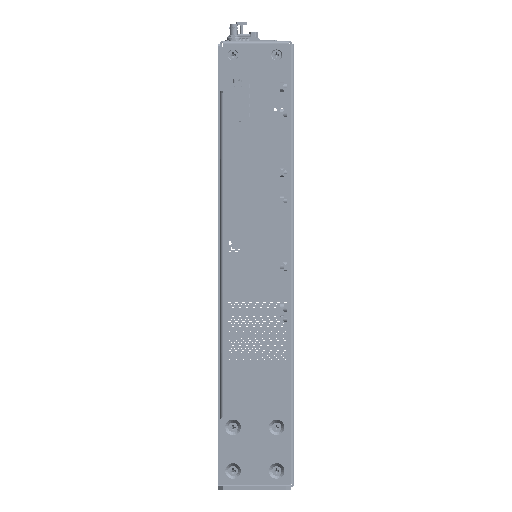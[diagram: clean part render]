
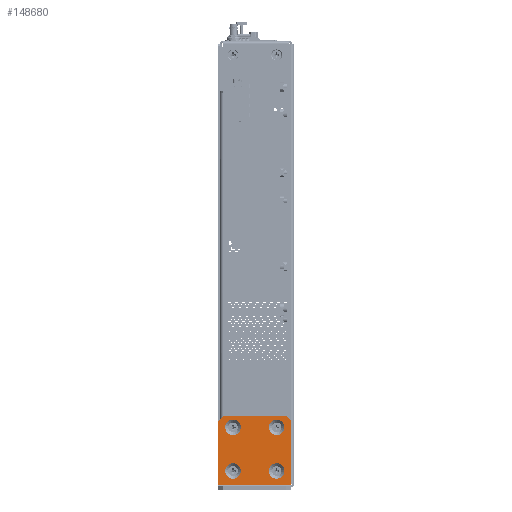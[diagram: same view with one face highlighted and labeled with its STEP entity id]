
A CAD part, left-side view. The second image highlights one B-rep face of the part: STEP entity #148680.
In plain terms, the highlighted planar face has unit normal (-1, 0, 0).
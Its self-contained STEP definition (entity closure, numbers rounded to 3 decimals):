
#4439 = VECTOR ( 'NONE', #175468, 1000. ) ;
#8830 = DIRECTION ( 'NONE',  ( -1., 0., 0. ) ) ;
#22131 = CARTESIAN_POINT ( 'NONE',  ( 0., -12.5, -37.966 ) ) ;
#40979 = VECTOR ( 'NONE', #268913, 1000. ) ;
#51517 = DIRECTION ( 'NONE',  ( 0., 0., 1. ) ) ;
#51541 = LINE ( 'NONE', #258525, #40979 ) ;
#52537 = FACE_BOUND ( 'NONE', #75534, .T. ) ;
#57394 = AXIS2_PLACEMENT_3D ( 'NONE', #282307, #8830, #654121 ) ;
#57549 = AXIS2_PLACEMENT_3D ( 'NONE', #214534, #632128, #218028 ) ;
#60727 = DIRECTION ( 'NONE',  ( 0., -0.707, -0.707 ) ) ;
#62062 = VERTEX_POINT ( 'NONE', #636543 ) ;
#62385 = EDGE_LOOP ( 'NONE', ( #599984, #138584, #452013, #313919, #600856, #195164 ) ) ;
#66461 = EDGE_CURVE ( 'NONE', #418515, #604167, #494826, .T. ) ;
#69859 = DIRECTION ( 'NONE',  ( -1., 0., 0. ) ) ;
#75534 = EDGE_LOOP ( 'NONE', ( #259034, #84891 ) ) ;
#80979 = CIRCLE ( 'NONE', #484125, 4.45 ) ;
#84891 = ORIENTED_EDGE ( 'NONE', *, *, #610404, .F. ) ;
#85391 = VERTEX_POINT ( 'NONE', #663088 ) ;
#97374 = VECTOR ( 'NONE', #60727, 1000. ) ;
#111800 = DIRECTION ( 'NONE',  ( 0., 0., 1. ) ) ;
#112041 = FACE_BOUND ( 'NONE', #291750, .T. ) ;
#122510 = EDGE_CURVE ( 'NONE', #296538, #663394, #390186, .T. ) ;
#126223 = CARTESIAN_POINT ( 'NONE',  ( 0., -18., -40. ) ) ;
#129780 = EDGE_CURVE ( 'NONE', #612977, #197543, #662069, .T. ) ;
#137743 = EDGE_CURVE ( 'NONE', #85391, #560340, #474132, .T. ) ;
#138584 = ORIENTED_EDGE ( 'NONE', *, *, #221718, .T. ) ;
#143948 = AXIS2_PLACEMENT_3D ( 'NONE', #487294, #378608, #161016 ) ;
#147103 = CARTESIAN_POINT ( 'NONE',  ( 0., 21., -0.737 ) ) ;
#148680 = ADVANCED_FACE ( 'NONE', ( #52537, #592569, #112041, #427824, #641694 ), #375221, .T. ) ;
#151888 = LINE ( 'NONE', #260695, #177338 ) ;
#161016 = DIRECTION ( 'NONE',  ( 0., 0., 1. ) ) ;
#175468 = DIRECTION ( 'NONE',  ( 0., -1., 0. ) ) ;
#177338 = VECTOR ( 'NONE', #274551, 1000. ) ;
#180341 = CIRCLE ( 'NONE', #57394, 4.45 ) ;
#192929 = EDGE_LOOP ( 'NONE', ( #645727, #431596 ) ) ;
#195164 = ORIENTED_EDGE ( 'NONE', *, *, #476957, .T. ) ;
#197543 = VERTEX_POINT ( 'NONE', #536348 ) ;
#203949 = VERTEX_POINT ( 'NONE', #22131 ) ;
#205772 = ORIENTED_EDGE ( 'NONE', *, *, #129780, .F. ) ;
#209284 = CARTESIAN_POINT ( 'NONE',  ( 0., -12.5, -8.516 ) ) ;
#210978 = EDGE_CURVE ( 'NONE', #554236, #203949, #80979, .T. ) ;
#214534 = CARTESIAN_POINT ( 'NONE',  ( 0., -12.5, -8.516 ) ) ;
#217021 = CARTESIAN_POINT ( 'NONE',  ( 0., -12.5, -33.516 ) ) ;
#218028 = DIRECTION ( 'NONE',  ( 0., 0., 1. ) ) ;
#220538 = ORIENTED_EDGE ( 'NONE', *, *, #287623, .F. ) ;
#221718 = EDGE_CURVE ( 'NONE', #663394, #418515, #383371, .T. ) ;
#232710 = CARTESIAN_POINT ( 'NONE',  ( 0., 12.5, -12.966 ) ) ;
#235842 = EDGE_CURVE ( 'NONE', #604167, #625512, #51541, .T. ) ;
#241951 = CARTESIAN_POINT ( 'NONE',  ( 0., 21., -40. ) ) ;
#258525 = CARTESIAN_POINT ( 'NONE',  ( 0., -18.5, -39.5 ) ) ;
#259034 = ORIENTED_EDGE ( 'NONE', *, *, #137743, .F. ) ;
#260695 = CARTESIAN_POINT ( 'NONE',  ( 0., -21., 0. ) ) ;
#268913 = DIRECTION ( 'NONE',  ( 0., -0.707, 0.707 ) ) ;
#269893 = CARTESIAN_POINT ( 'NONE',  ( 0., 21., 0. ) ) ;
#274551 = DIRECTION ( 'NONE',  ( 0., 0., -1. ) ) ;
#282307 = CARTESIAN_POINT ( 'NONE',  ( 0., -12.5, -33.516 ) ) ;
#287623 = EDGE_CURVE ( 'NONE', #197543, #612977, #580658, .T. ) ;
#291750 = EDGE_LOOP ( 'NONE', ( #205772, #220538 ) ) ;
#296538 = VERTEX_POINT ( 'NONE', #147103 ) ;
#298414 = CARTESIAN_POINT ( 'NONE',  ( 0., -21., -37. ) ) ;
#304394 = CARTESIAN_POINT ( 'NONE',  ( 0., 12.5, -29.066 ) ) ;
#308903 = CARTESIAN_POINT ( 'NONE',  ( 0., 12.5, -8.516 ) ) ;
#310545 = ORIENTED_EDGE ( 'NONE', *, *, #676291, .F. ) ;
#313919 = ORIENTED_EDGE ( 'NONE', *, *, #235842, .T. ) ;
#314921 = DIRECTION ( 'NONE',  ( 0., 0., 1. ) ) ;
#315758 = DIRECTION ( 'NONE',  ( -1., 0., 0. ) ) ;
#319512 = CARTESIAN_POINT ( 'NONE',  ( 0., -12.5, -4.066 ) ) ;
#327309 = CARTESIAN_POINT ( 'NONE',  ( 0., 39.5, -18.5 ) ) ;
#336530 = CARTESIAN_POINT ( 'NONE',  ( 0., 12.5, -33.516 ) ) ;
#354732 = CARTESIAN_POINT ( 'NONE',  ( 0., -21., -0.737 ) ) ;
#359793 = DIRECTION ( 'NONE',  ( 0., 0., 1. ) ) ;
#375221 = PLANE ( 'NONE',  #572822 ) ;
#378608 = DIRECTION ( 'NONE',  ( -1., 0., 0. ) ) ;
#378701 = DIRECTION ( 'NONE',  ( -1., 0., 0. ) ) ;
#381538 = ORIENTED_EDGE ( 'NONE', *, *, #210978, .F. ) ;
#383371 = LINE ( 'NONE', #327309, #97374 ) ;
#385576 = DIRECTION ( 'NONE',  ( 0., 0., 1. ) ) ;
#390186 = LINE ( 'NONE', #404012, #643297 ) ;
#393315 = AXIS2_PLACEMENT_3D ( 'NONE', #336530, #69859, #314921 ) ;
#398725 = VERTEX_POINT ( 'NONE', #671171 ) ;
#404012 = CARTESIAN_POINT ( 'NONE',  ( 0., 21., 0. ) ) ;
#407257 = LINE ( 'NONE', #354732, #470142 ) ;
#416380 = DIRECTION ( 'NONE',  ( -1., 0., 0. ) ) ;
#418515 = VERTEX_POINT ( 'NONE', #625060 ) ;
#427824 = FACE_BOUND ( 'NONE', #609552, .T. ) ;
#431596 = ORIENTED_EDGE ( 'NONE', *, *, #556795, .F. ) ;
#447159 = AXIS2_PLACEMENT_3D ( 'NONE', #626308, #615924, #359793 ) ;
#452013 = ORIENTED_EDGE ( 'NONE', *, *, #66461, .T. ) ;
#456673 = DIRECTION ( 'NONE',  ( 0., 0., -1. ) ) ;
#470142 = VECTOR ( 'NONE', #561582, 1000. ) ;
#474132 = CIRCLE ( 'NONE', #496679, 4.45 ) ;
#476957 = EDGE_CURVE ( 'NONE', #398725, #296538, #407257, .T. ) ;
#484125 = AXIS2_PLACEMENT_3D ( 'NONE', #217021, #536278, #111800 ) ;
#487294 = CARTESIAN_POINT ( 'NONE',  ( 0., 12.5, -33.516 ) ) ;
#494826 = LINE ( 'NONE', #241951, #4439 ) ;
#496679 = AXIS2_PLACEMENT_3D ( 'NONE', #308903, #315758, #684076 ) ;
#497575 = CIRCLE ( 'NONE', #632234, 4.45 ) ;
#526858 = CARTESIAN_POINT ( 'NONE',  ( 0., 21., -37. ) ) ;
#536278 = DIRECTION ( 'NONE',  ( -1., 0., 0. ) ) ;
#536348 = CARTESIAN_POINT ( 'NONE',  ( 0., 12.5, -37.966 ) ) ;
#544075 = CARTESIAN_POINT ( 'NONE',  ( 0., -12.5, -29.066 ) ) ;
#554236 = VERTEX_POINT ( 'NONE', #544075 ) ;
#556795 = EDGE_CURVE ( 'NONE', #62062, #576065, #497575, .T. ) ;
#560340 = VERTEX_POINT ( 'NONE', #232710 ) ;
#561582 = DIRECTION ( 'NONE',  ( 0., 1., 0. ) ) ;
#572670 = CIRCLE ( 'NONE', #57549, 4.45 ) ;
#572822 = AXIS2_PLACEMENT_3D ( 'NONE', #269893, #378701, #385576 ) ;
#576065 = VERTEX_POINT ( 'NONE', #319512 ) ;
#580658 = CIRCLE ( 'NONE', #143948, 4.45 ) ;
#583135 = EDGE_CURVE ( 'NONE', #398725, #625512, #151888, .T. ) ;
#592569 = FACE_BOUND ( 'NONE', #192929, .T. ) ;
#592908 = CIRCLE ( 'NONE', #447159, 4.45 ) ;
#599984 = ORIENTED_EDGE ( 'NONE', *, *, #122510, .T. ) ;
#600398 = EDGE_CURVE ( 'NONE', #576065, #62062, #572670, .T. ) ;
#600856 = ORIENTED_EDGE ( 'NONE', *, *, #583135, .F. ) ;
#604167 = VERTEX_POINT ( 'NONE', #126223 ) ;
#609552 = EDGE_LOOP ( 'NONE', ( #381538, #310545 ) ) ;
#610404 = EDGE_CURVE ( 'NONE', #560340, #85391, #592908, .T. ) ;
#612977 = VERTEX_POINT ( 'NONE', #304394 ) ;
#615924 = DIRECTION ( 'NONE',  ( -1., 0., 0. ) ) ;
#625060 = CARTESIAN_POINT ( 'NONE',  ( 0., 18., -40. ) ) ;
#625512 = VERTEX_POINT ( 'NONE', #298414 ) ;
#626308 = CARTESIAN_POINT ( 'NONE',  ( 0., 12.5, -8.516 ) ) ;
#632128 = DIRECTION ( 'NONE',  ( -1., 0., 0. ) ) ;
#632234 = AXIS2_PLACEMENT_3D ( 'NONE', #209284, #416380, #51517 ) ;
#636543 = CARTESIAN_POINT ( 'NONE',  ( 0., -12.5, -12.966 ) ) ;
#641694 = FACE_OUTER_BOUND ( 'NONE', #62385, .T. ) ;
#643297 = VECTOR ( 'NONE', #456673, 1000. ) ;
#645727 = ORIENTED_EDGE ( 'NONE', *, *, #600398, .F. ) ;
#654121 = DIRECTION ( 'NONE',  ( 0., 0., 1. ) ) ;
#662069 = CIRCLE ( 'NONE', #393315, 4.45 ) ;
#663088 = CARTESIAN_POINT ( 'NONE',  ( 0., 12.5, -4.066 ) ) ;
#663394 = VERTEX_POINT ( 'NONE', #526858 ) ;
#671171 = CARTESIAN_POINT ( 'NONE',  ( 0., -21., -0.737 ) ) ;
#676291 = EDGE_CURVE ( 'NONE', #203949, #554236, #180341, .T. ) ;
#684076 = DIRECTION ( 'NONE',  ( 0., 0., 1. ) ) ;
